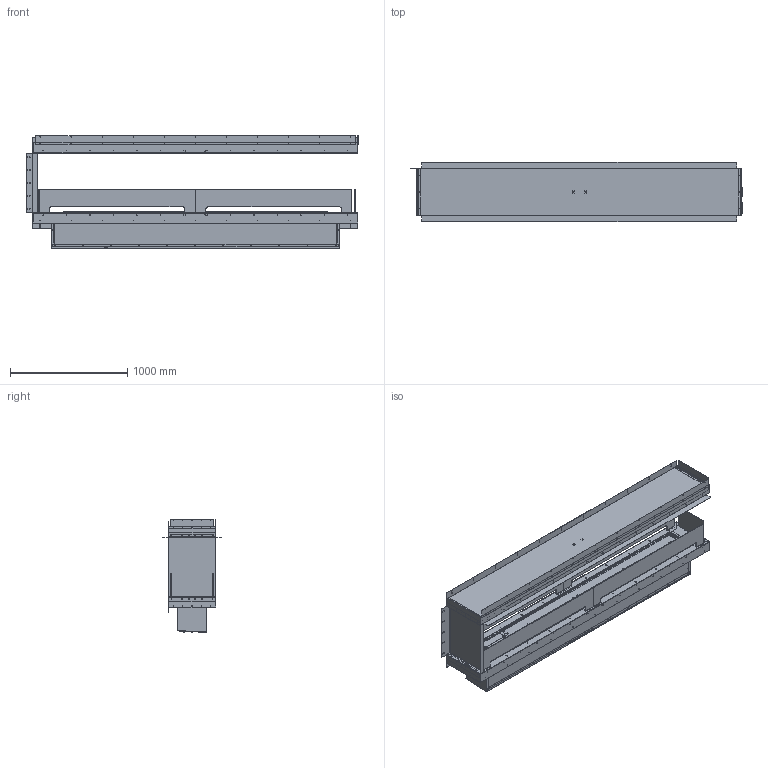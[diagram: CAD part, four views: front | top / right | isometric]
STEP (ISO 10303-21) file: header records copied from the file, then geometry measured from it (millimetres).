
FILE_DESCRIPTION (( 'STEP AP214' ), '1' );
FILE_NAME ('3d_Forma_2700_Room_Divider_FLA3.STEP', '2022-05-30T11:24:11', ( '' ), ( '' ), 'SwSTEP 2.0', 'SolidWorks 2019', '' );
FILE_SCHEMA (( 'AUTOMOTIVE_DESIGN' ));
Length unit declared in the file: millimetre
Products named in the file (57): 000059785_000059785-2490 WW; 000057747_000057747_106; PZ-FLA3XT-0003; 000064025; B-003-090; 000-056-480_000-056-480_106; 000-050-969_000-050-969-2490; 3d_Forma_2700_Room_Divider_FLA3; 000060275_000060275_106DSP; hex tapping screws_iso_Tapping Screw ISO 14585 - ST4.2 x 9.5-C-N; 000059906; 000060281_000060281_106DSP; 000-056-471; 000111255; 000-046-432; 000-042-826_000-042-826-2490; 000-049-284; 000-049-813; ok1585_ok1585-2490; Nitonakrêtka bezko³nierzowa_Nitonakr©tka bezkoˆnierzowa M4 (1,5); 000-049-326_000-049-326-2490; 000111256; Ko³ek gwintowany do zgrzewania_ISO 13918 M4x10; 000057657_000057657_106; 000060277_000060277_106; 000059955; B-003-087_B-003-087-2490; 000057659_000057659_106; 000-056-473_000-056-473_106; B-003-091_B-003-091-1990; Nakrêtka wciskana_Sariv S-S M3-3; 000061618_000061618_106; 000095743; 000064026; 000060313; 000066241; 000-056-474_000-056-474_106; B-000-462; ok1586; B-000-460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
Assembly tree (131 placements, depth 4):
  3d_Forma_2700_Room_Divider_FLA3
    000061618_000061618_106
      000-056-480_000-056-480_106
        000-056-473_000-056-473_106
        000-056-474_000-056-474_106
      000057657_000057657_106
      000057659_000057659_106
      000057660
    000-056-471
    000056880_000056880_106
    000056915
    000057000_000057000_106  x2
    000057747_000057747_106  x4
    000060281_000060281_106DSP
      000060275_000060275_106DSP
      000060277_000060277_106
      000060280_000060280_106
      000060313  x2
      000066241  x8
      000069177  x2
      Nitonakrêtka bezko³nierzowa_Nitonakr©tka bezkoˆnierzowa M4 (1,5)  x2
      000111255  x2
    000059785_000059785-2490 WW
      000-049-267_000-049-267-2490
        000-049-266_000-049-266-2490
        Ko³ek gwintowany do zgrzewania_ISO 13918 M4x10  x26
        Nakrêtka wciskana_Sariv S-S M3-3  x6
      000-050-969_000-050-969-2490  x2
      000059948_000059948-2490  x2
      000-049-326_000-049-326-2490
      000-042-826_000-042-826-2490  x2
      000-049-813
        024-324-324
        Ko³ek gwintowany do zgrzewania_ISO 13918 M4x10  x2
      ok1585_ok1585-2490
        B-003-087_B-003-087-2490
        B-003-090  x2
        B-000-460  x6
        B-003-091_B-003-091-1990  x2
        B-003-094  x4
        B-000-462  x8
        000-051-004
        000095743  x2
      000059955
      PZ-FLA3XT-0003
      ok1586
      hex tapping screws_iso_Tapping Screw ISO 14585 - ST4.2 x 9.5-C-N  x2
      000059906
      000-046-432  x4
      000-049-284
      ok1271-08  x4
      KEYSTONE 5228
      000064025
      000064026
      000100551
    000066242
    000111128
    000111256
Bounding box: 2834 x 506 x 964.71 mm (x, y, z)
Volume: 21564368.2 mm3; surface area: 24192728.3 mm2
Topology: 137 solids, 137 shells, 7138 faces, 19178 edges, 12335 vertices
Faces by surface type: cylinder 4027, plane 2732, cone 228, bspline 95, torus 52, sphere 4
Entity records: 156084 total; most frequent: CARTESIAN_POINT 32298, DIRECTION 26453, ORIENTED_EDGE 24190, EDGE_CURVE 12095, AXIS2_PLACEMENT_3D 10049, VERTEX_POINT 7796, EDGE_LOOP 6459, LINE 6355
